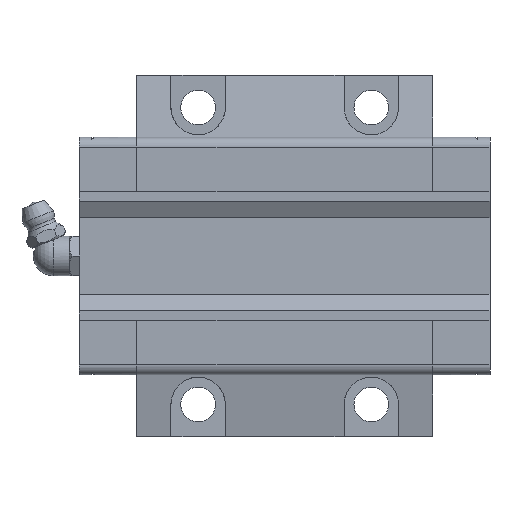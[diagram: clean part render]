
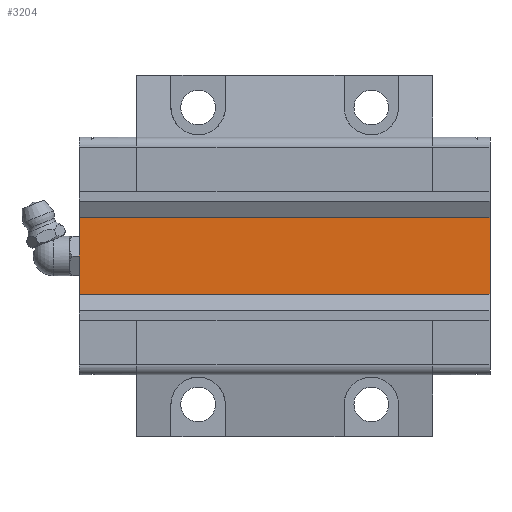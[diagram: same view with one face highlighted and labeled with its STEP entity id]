
A CAD part, front view. The second image highlights one B-rep face of the part: STEP entity #3204.
In plain terms, the highlighted planar face has unit normal (0, -1, 0).
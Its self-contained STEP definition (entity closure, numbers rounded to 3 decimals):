
#206=LINE('',#5041,#536);
#226=LINE('',#5095,#556);
#337=LINE('',#5376,#667);
#338=LINE('',#5378,#668);
#536=VECTOR('',#3949,1000.);
#556=VECTOR('',#3989,1000.);
#667=VECTOR('',#4280,1000.);
#668=VECTOR('',#4283,1000.);
#800=PLANE('',#3491);
#1685=ORIENTED_EDGE('',*,*,#2077,.F.);
#1686=ORIENTED_EDGE('',*,*,#2244,.F.);
#1687=ORIENTED_EDGE('',*,*,#2104,.T.);
#1688=ORIENTED_EDGE('',*,*,#2245,.T.);
#2077=EDGE_CURVE('',#2453,#2454,#206,.T.);
#2104=EDGE_CURVE('',#2478,#2477,#226,.T.);
#2244=EDGE_CURVE('',#2478,#2453,#337,.T.);
#2245=EDGE_CURVE('',#2477,#2454,#338,.T.);
#2453=VERTEX_POINT('',#5040);
#2454=VERTEX_POINT('',#5042);
#2477=VERTEX_POINT('',#5094);
#2478=VERTEX_POINT('',#5096);
#2772=EDGE_LOOP('',(#1685,#1686,#1687,#1688));
#2995=FACE_BOUND('',#2772,.T.);
#3204=ADVANCED_FACE('',(#2995),#800,.T.);
#3491=AXIS2_PLACEMENT_3D('',#5377,#4281,#4282);
#3949=DIRECTION('',(0.,0.,1.));
#3989=DIRECTION('',(0.,0.,1.));
#4280=DIRECTION('',(-1.,0.,0.));
#4281=DIRECTION('',(0.,-1.,0.));
#4282=DIRECTION('',(0.,0.,-1.));
#4283=DIRECTION('',(-1.,0.,0.));
#5040=CARTESIAN_POINT('',(-41.5,11.2,-7.721));
#5041=CARTESIAN_POINT('',(-41.5,11.2,-7.721));
#5042=CARTESIAN_POINT('',(-41.5,11.2,7.721));
#5094=CARTESIAN_POINT('',(41.5,11.2,7.721));
#5095=CARTESIAN_POINT('',(41.5,11.2,-7.721));
#5096=CARTESIAN_POINT('',(41.5,11.2,-7.721));
#5376=CARTESIAN_POINT('',(41.5,11.2,-7.721));
#5377=CARTESIAN_POINT('',(41.5,11.2,-7.721));
#5378=CARTESIAN_POINT('',(41.5,11.2,7.721));
